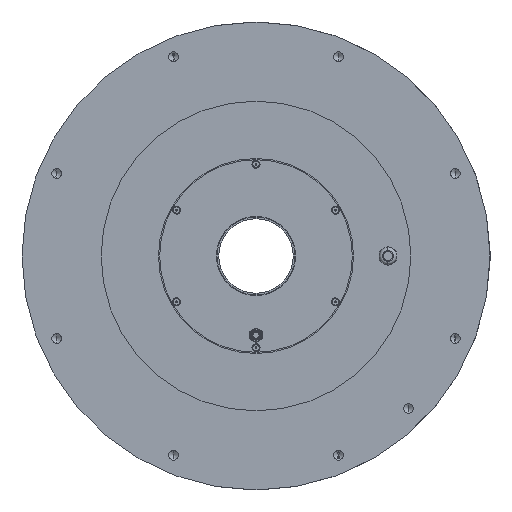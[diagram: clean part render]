
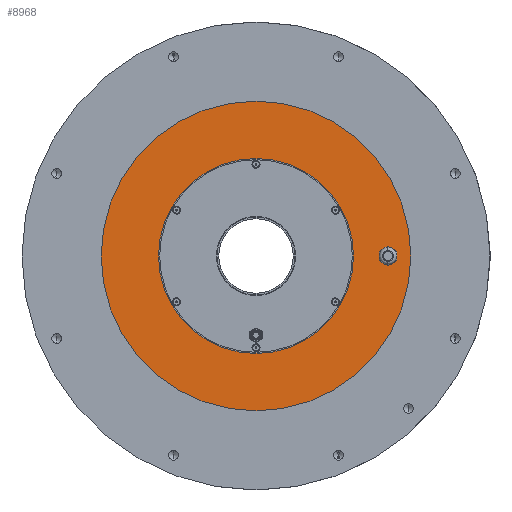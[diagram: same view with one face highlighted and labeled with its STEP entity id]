
A CAD part, front view. The second image highlights one B-rep face of the part: STEP entity #8968.
In plain terms, the highlighted planar face has unit normal (0, -1, 0).
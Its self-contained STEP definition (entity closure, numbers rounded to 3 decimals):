
#36 = CARTESIAN_POINT ( 'NONE',  ( 0., 0., -85. ) ) ;
#136 = EDGE_CURVE ( 'NONE', #10359, #22868, #32808, .T. ) ;
#659 = FACE_OUTER_BOUND ( 'NONE', #18292, .T. ) ;
#728 = AXIS2_PLACEMENT_3D ( 'NONE', #5101, #25808, #34359 ) ;
#1029 = DIRECTION ( 'NONE',  ( 0., -1., 0. ) ) ;
#1149 = ORIENTED_EDGE ( 'NONE', *, *, #136, .F. ) ;
#1254 = ORIENTED_EDGE ( 'NONE', *, *, #29132, .F. ) ;
#1485 = AXIS2_PLACEMENT_3D ( 'NONE', #34392, #1029, #12074 ) ;
#1996 = VERTEX_POINT ( 'NONE', #30516 ) ;
#2321 = EDGE_CURVE ( 'NONE', #1996, #3200, #9667, .T. ) ;
#3200 = VERTEX_POINT ( 'NONE', #17530 ) ;
#4899 = DIRECTION ( 'NONE',  ( 0., 0., -1. ) ) ;
#5101 = CARTESIAN_POINT ( 'NONE',  ( 0., 0., 0. ) ) ;
#5817 = CIRCLE ( 'NONE', #20141, 7.25 ) ;
#6181 = DIRECTION ( 'NONE',  ( 0., 1., 0. ) ) ;
#8000 = AXIS2_PLACEMENT_3D ( 'NONE', #24823, #25185, #33193 ) ;
#8365 = EDGE_CURVE ( 'NONE', #26114, #35826, #8633, .T. ) ;
#8633 = CIRCLE ( 'NONE', #8000, 7.25 ) ;
#8890 = FACE_BOUND ( 'NONE', #12036, .T. ) ;
#8968 = ADVANCED_FACE ( 'NONE', ( #8890, #659, #18023 ), #23603, .T. ) ;
#9667 = CIRCLE ( 'NONE', #728, 135. ) ;
#9671 = CARTESIAN_POINT ( 'NONE',  ( 0., 0., 0. ) ) ;
#9995 = CIRCLE ( 'NONE', #19519, 135. ) ;
#10359 = VERTEX_POINT ( 'NONE', #20843 ) ;
#10570 = CARTESIAN_POINT ( 'NONE',  ( 0., 0., 0. ) ) ;
#11252 = EDGE_CURVE ( 'NONE', #35826, #26114, #5817, .T. ) ;
#11726 = CIRCLE ( 'NONE', #12930, 85. ) ;
#12036 = EDGE_LOOP ( 'NONE', ( #22813, #27256 ) ) ;
#12074 = DIRECTION ( 'NONE',  ( 0., 0., -1. ) ) ;
#12930 = AXIS2_PLACEMENT_3D ( 'NONE', #9671, #32198, #20678 ) ;
#13338 = CARTESIAN_POINT ( 'NONE',  ( 115., 0., -7.25 ) ) ;
#14544 = ORIENTED_EDGE ( 'NONE', *, *, #2321, .T. ) ;
#16653 = EDGE_LOOP ( 'NONE', ( #1254, #1149 ) ) ;
#17530 = CARTESIAN_POINT ( 'NONE',  ( 0., 0., -135. ) ) ;
#18023 = FACE_BOUND ( 'NONE', #16653, .T. ) ;
#18292 = EDGE_LOOP ( 'NONE', ( #30997, #14544 ) ) ;
#18960 = DIRECTION ( 'NONE',  ( 0., 0., -1. ) ) ;
#19136 = AXIS2_PLACEMENT_3D ( 'NONE', #27278, #22086, #4899 ) ;
#19519 = AXIS2_PLACEMENT_3D ( 'NONE', #10570, #27320, #18960 ) ;
#20141 = AXIS2_PLACEMENT_3D ( 'NONE', #20561, #6181, #31715 ) ;
#20561 = CARTESIAN_POINT ( 'NONE',  ( 115., 0., 0. ) ) ;
#20678 = DIRECTION ( 'NONE',  ( 0., 0., -1. ) ) ;
#20843 = CARTESIAN_POINT ( 'NONE',  ( 0., 0., 85. ) ) ;
#21333 = CARTESIAN_POINT ( 'NONE',  ( 115., 0., 7.25 ) ) ;
#22086 = DIRECTION ( 'NONE',  ( 0., -1., 0. ) ) ;
#22813 = ORIENTED_EDGE ( 'NONE', *, *, #11252, .T. ) ;
#22868 = VERTEX_POINT ( 'NONE', #36 ) ;
#23603 = PLANE ( 'NONE',  #1485 ) ;
#24823 = CARTESIAN_POINT ( 'NONE',  ( 115., 0., 0. ) ) ;
#25185 = DIRECTION ( 'NONE',  ( 0., 1., 0. ) ) ;
#25808 = DIRECTION ( 'NONE',  ( 0., -1., 0. ) ) ;
#26114 = VERTEX_POINT ( 'NONE', #13338 ) ;
#27256 = ORIENTED_EDGE ( 'NONE', *, *, #8365, .T. ) ;
#27278 = CARTESIAN_POINT ( 'NONE',  ( 0., 0., 0. ) ) ;
#27320 = DIRECTION ( 'NONE',  ( 0., -1., 0. ) ) ;
#29132 = EDGE_CURVE ( 'NONE', #22868, #10359, #11726, .T. ) ;
#30516 = CARTESIAN_POINT ( 'NONE',  ( 0., 0., 135. ) ) ;
#30997 = ORIENTED_EDGE ( 'NONE', *, *, #31615, .T. ) ;
#31615 = EDGE_CURVE ( 'NONE', #3200, #1996, #9995, .T. ) ;
#31715 = DIRECTION ( 'NONE',  ( 0., 0., 1. ) ) ;
#32198 = DIRECTION ( 'NONE',  ( 0., -1., 0. ) ) ;
#32808 = CIRCLE ( 'NONE', #19136, 85. ) ;
#33193 = DIRECTION ( 'NONE',  ( 0., 0., 1. ) ) ;
#34359 = DIRECTION ( 'NONE',  ( 0., 0., -1. ) ) ;
#34392 = CARTESIAN_POINT ( 'NONE',  ( 85., 0., 0. ) ) ;
#35826 = VERTEX_POINT ( 'NONE', #21333 ) ;
